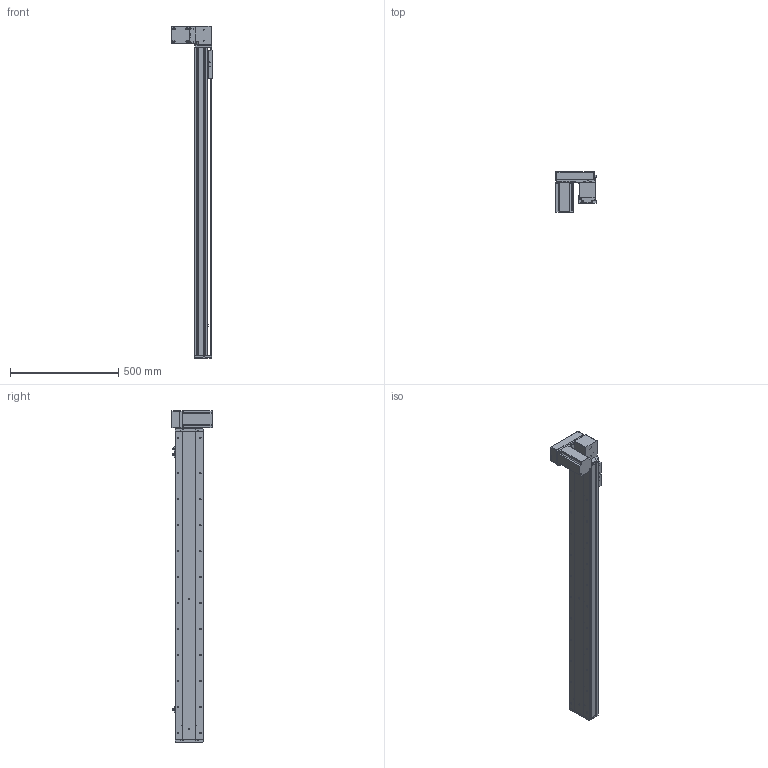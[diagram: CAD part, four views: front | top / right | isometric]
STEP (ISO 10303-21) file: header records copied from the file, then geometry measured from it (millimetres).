
FILE_DESCRIPTION (( 'STEP AP214' ), '1' );
FILE_NAME ('KSD130B-S1200-MRD-CM.STEP', '2019-09-23T01:47:07', ( '微软用户' ), ( '微软中国' ), 'SwSTEP 2.0', 'SolidWorks 2014', '' );
FILE_SCHEMA (( 'AUTOMOTIVE_DESIGN' ));
Length unit declared in the file: millimetre
Products named in the file (12): 130宽模组保护罩上下左右折-同步带; 台达ECMA－C20807AS伺服电机; 130宽模组马达安装板连板上下折丝杆同步带; 覜茼え100遵圉猾敕; U倰嫖萇EEㄜSX672; 130宽盖板半封闭同步带-1200行程; 130宽马达安装板同步带右-改镜向_默认<按加工>; 130宽马达安装板同步带半封闭; 130宽同步带安装座半封闭; 130宽端盖同步带半封闭; 130宽底板半封闭同步带-1200行程; KSD130B-S1200-MRD-CM
Assembly tree (13 placements, depth 2):
  KSD130B-S1200-MRD-CM
    130宽底板半封闭同步带-1200行程
    130宽端盖同步带半封闭
    130宽同步带安装座半封闭
    130宽马达安装板同步带半封闭
    130宽马达安装板同步带右-改镜向_默认<按加工>
    130宽盖板半封闭同步带-1200行程
    U倰嫖萇EEㄜSX672  x3
    覜茼え100遵圉猾敕
    130宽模组马达安装板连板上下折丝杆同步带
    台达ECMA－C20807AS伺服电机
    130宽模组保护罩上下左右折-同步带
Bounding box: 186 x 184.8 x 1533 mm (x, y, z)
Volume: 5506232.4 mm3; surface area: 1521819.8 mm2
Topology: 14 solids, 14 shells, 1577 faces, 4525 edges, 2881 vertices
Faces by surface type: cylinder 760, plane 630, cone 187
Entity records: 52327 total; most frequent: CARTESIAN_POINT 9802, DIRECTION 7951, ORIENTED_EDGE 7662, EDGE_CURVE 3831, AXIS2_PLACEMENT_3D 2910, VERTEX_POINT 2505, VECTOR 2131, LINE 2131
